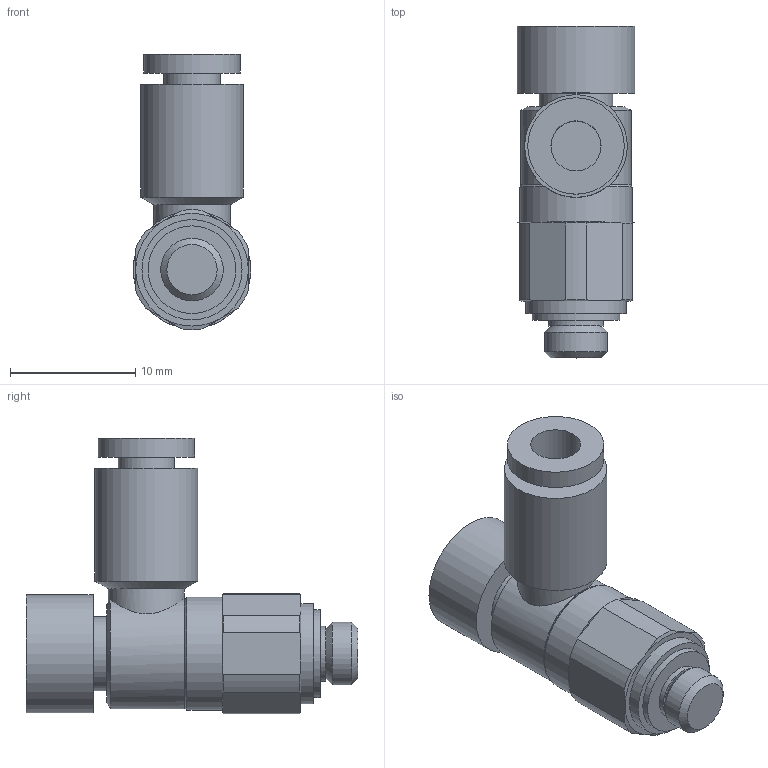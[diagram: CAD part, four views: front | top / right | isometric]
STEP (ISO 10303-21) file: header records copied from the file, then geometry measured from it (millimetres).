
FILE_DESCRIPTION( ( 'STEP AP214' ), '1' );
FILE_NAME( 'e:/temp/worker_151/temp/exporttempdir_3292_525_LEytw/format_1/AS1201F-M5-04A.stp', '2021-09-08T01:30:03', ( 'License CC BY-ND 4.0' ), ( 'CADENAS' ), ' ', 'PARTsolutions', ' ' );
FILE_SCHEMA( ( 'AUTOMOTIVE_DESIGN { 1 0 10303 214 1 1 1 1 }' ) );
Length unit declared in the file: millimetre
Products named in the file (1): _AS1201F-M5-04A
Bounding box: 9.4 x 26.5 x 21.99 mm (x, y, z)
Volume: 1970.3 mm3; surface area: 1512.4 mm2
Topology: 1 solids, 1 shells, 56 faces, 121 edges, 77 vertices
Faces by surface type: plane 25, cylinder 19, cone 12
Full cylindrical faces by diameter (mm): 4 x1, 4.4 x1, 4.5 x1, 5 x1, 5.9 x1, 6.1 x1, 7 x1, 7.7 x1, 8 x1, 8.2 x1, 8.8 x1, 9 x1, 9.4 x1
Entity records: 1944 total; most frequent: CARTESIAN_POINT 366, DIRECTION 238, ORIENTED_EDGE 196, AXIS2_PLACEMENT_3D 110, EDGE_CURVE 98, EDGE_LOOP 84, VERTEX_POINT 72, FACE_OUTER_BOUND 68
